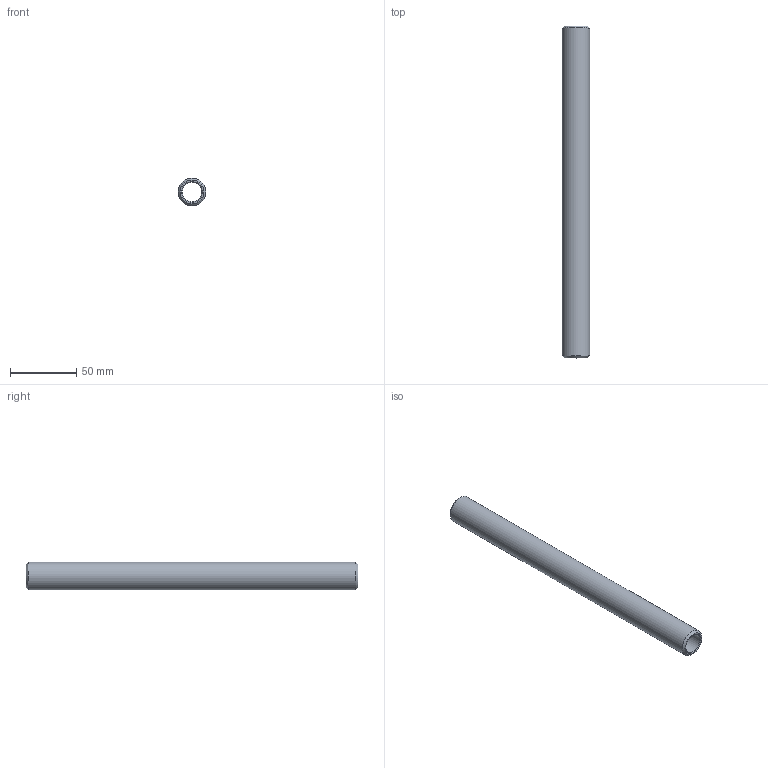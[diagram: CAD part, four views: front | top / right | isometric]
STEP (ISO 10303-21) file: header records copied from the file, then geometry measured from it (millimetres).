
FILE_DESCRIPTION(('STEP AP203'), '1');
FILE_NAME('ÂÐ.715241.007 - VTr.652.N.0425 Áî÷. ðåçüá G1-2 L250', '2024-07-11T08:38:16', ('User'), ('Vesta'), 'C3D Converter', 'C3D Toolkit', '');
FILE_SCHEMA(('CONFIG_CONTROL_DESIGN'));
Length unit declared in the file: millimetre
Products named in the file (1): ВР.715241.007
Bounding box: 20.95 x 250 x 20.95 mm (x, y, z)
Volume: 43052.8 mm3; surface area: 28274.3 mm2
Topology: 1 solids, 1 shells, 8 faces, 14 edges, 8 vertices
Faces by surface type: cone 4, plane 2, cylinder 2
Full cylindrical faces by diameter (mm): 14.8 x1, 20.955 x1
Entity records: 199 total; most frequent: DIRECTION 34, CARTESIAN_POINT 25, AXIS2_PLACEMENT_3D 17, EDGE_LOOP 16, ORIENTED_EDGE 16, FACE_OUTER_BOUND 12, ADVANCED_FACE 8, EDGE_CURVE 8
